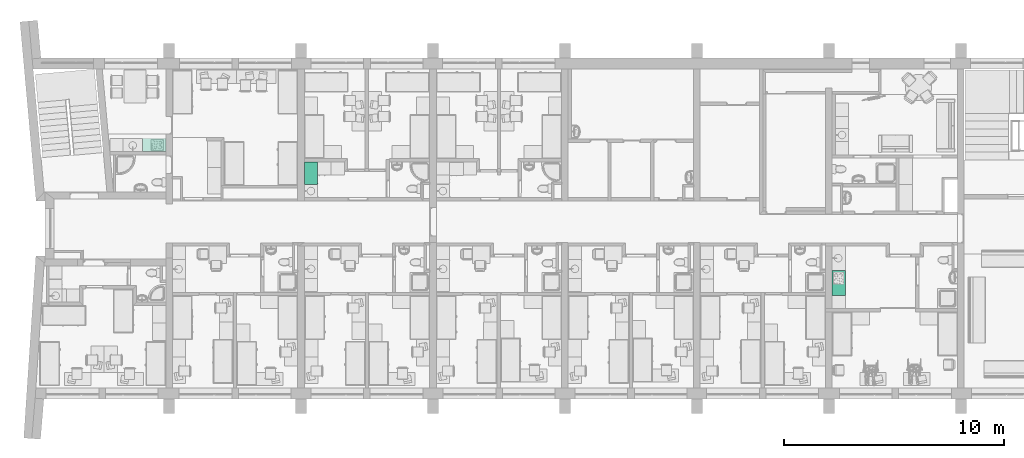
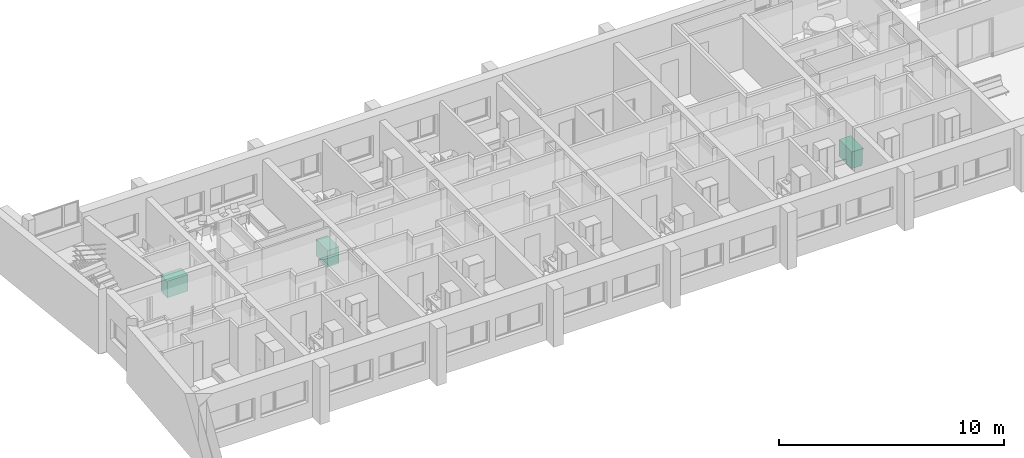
# One storey, part 65 of 172: 3 flow terminals.
"""IFC2X3 building model written with IfcOpenShell, lengths in millimetres."""

from ifc_helpers import new_model, entity, si_unit, converted_unit, money_unit, direction, frame, origin_with_axes, place, context, subcontext, project, spatial, faceted_brep, material, material_list, type_object, element, save


model = new_model("IFC2X3")

# Units and contexts
model_context = context("Model", 3, precision=1e-05, world=origin_with_axes(), true_north=direction((0.0, 1.0)))
body_context = subcontext(model_context, "Body", "Model", "MODEL_VIEW")
ifc_project = project(units=[si_unit("LENGTHUNIT", "METRE", prefix="MILLI"), si_unit("AREAUNIT", "SQUARE_METRE"), si_unit("VOLUMEUNIT", "CUBIC_METRE"), converted_unit("PLANEANGLEUNIT", "DEGREE", entity("IfcPlaneAngleMeasure", 0.0174532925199), si_unit("PLANEANGLEUNIT", "RADIAN"), dimensions=[0, 0, 0, 0, 0, 0, 0]), si_unit("SOLIDANGLEUNIT", "STERADIAN"), money_unit("USD"), converted_unit("TIMEUNIT", "Year", entity("IfcTimeMeasure", 31556926.0), si_unit("TIMEUNIT", "SECOND"), dimensions=[0, 0, 0, 0, 0, 0, 0]), si_unit("MASSUNIT", "GRAM"), si_unit("THERMODYNAMICTEMPERATUREUNIT", "DEGREE_CELSIUS"), si_unit("LUMINOUSINTENSITYUNIT", "LUMEN")], contexts=[model_context])

# Site, building, storey
site_placement = place(None, origin_with_axes())
site = spatial("IfcSite", under=ifc_project, at=site_placement, Name="Site", CompositionType="ELEMENT")
building_placement = place(site_placement, origin_with_axes())
building = spatial("IfcBuilding", under=site, at=building_placement, Name="Building", CompositionType="ELEMENT")
storey_placement = place(building_placement, frame((0.0, 0.0, 3200.0), z_axis=(0.0, 0.0, 1.0), x_axis=(1.0, 0.0, 0.0)))
storey = spatial("IfcBuildingStorey", under=building, at=storey_placement, Name="3KORRUS", CompositionType="ELEMENT", Elevation=3200.0)

# Flow terminals
ifc_material = material(Name="Background")
ifc_material_list = material_list([ifc_material])
sanitary_terminal_type = type_object("IfcSanitaryTerminalType", Name="Cabinet Base Single Door 19", PredefinedType="SINK")
flow_terminal_1_placement = place(storey_placement, frame((-41390.2967033, -9367.37850445, 0.0), z_axis=(0.0, 0.0, 1.0), x_axis=(0.0, 1.0, 0.0)))
element("IfcFlowTerminal", 1, at=flow_terminal_1_placement, inside=storey, type_object=sanitary_terminal_type, material=ifc_material_list, Name="FU - 007", context=body_context, shape_type="Brep", body=[
    faceted_brep([(-20.0, 20.0, 710.0), (-20.0, 20.0, 730.0), (-999.226, 20.0, 730.0), (-999.226, 20.0, 710.0), (-20.0, 580.0, 710.0), (-20.0, 580.0, 730.0), (-999.226, 580.0, 730.0), (-999.226, 580.0, 710.0)], [[[0, 1, 2, 3]], [[4, 5, 1, 0]], [[1, 5, 6, 2]], [[3, 2, 6, 7]], [[0, 3, 7, 4]], [[7, 6, 5, 4]]]),
    faceted_brep([(0.0, 20.0, 0.0), (0.0, 20.0, 90.0), (-1019.226, 20.0, 90.0), (-1019.226, 20.0, 0.0), (0.0, 600.0, 0.0), (0.0, 600.0, 90.0), (-1019.226, 600.0, 90.0), (-1019.226, 600.0, 0.0)], [[[0, 1, 2, 3]], [[4, 5, 1, 0]], [[1, 5, 6, 2]], [[3, 2, 6, 7]], [[0, 3, 7, 4]], [[7, 6, 5, 4]]]),
    faceted_brep([(0.0, 20.0, 830.0), (0.0, 20.0, 850.0), (-20.0, 20.0, 850.0), (-20.0, 20.0, 830.0), (0.0, 600.0, 830.0), (0.0, 600.0, 850.0), (-20.0, 600.0, 850.0), (-999.226, 600.0, 850.0), (-1019.226, 600.0, 850.0), (-1019.226, 20.0, 850.0), (-999.226, 20.0, 850.0), (-999.226, 20.0, 830.0), (-1019.226, 20.0, 830.0), (-1019.226, 600.0, 830.0), (-999.226, 600.0, 830.0), (-20.0, 600.0, 830.0)], [[[0, 1, 2, 3]], [[4, 5, 1, 0]], [[1, 5, 6, 7, 8, 9, 10, 2]], [[3, 2, 10, 11]], [[0, 3, 11, 12, 13, 14, 15, 4]], [[15, 6, 5, 4]], [[14, 7, 6, 15]], [[13, 8, 7, 14]], [[12, 9, 8, 13]], [[11, 10, 9, 12]]]),
    faceted_brep([(0.0, 20.0, 90.0), (0.0, 20.0, 110.0), (-20.0, 20.0, 110.0), (-20.0, 20.0, 90.0), (0.0, 600.0, 90.0), (0.0, 600.0, 110.0), (-20.0, 600.0, 110.0), (-999.226, 600.0, 110.0), (-1019.226, 600.0, 110.0), (-1019.226, 20.0, 110.0), (-999.226, 20.0, 110.0), (-999.226, 20.0, 90.0), (-1019.226, 20.0, 90.0), (-1019.226, 600.0, 90.0), (-999.226, 600.0, 90.0), (-20.0, 600.0, 90.0)], [[[0, 1, 2, 3]], [[4, 5, 1, 0]], [[1, 5, 6, 7, 8, 9, 10, 2]], [[3, 2, 10, 11]], [[0, 3, 11, 12, 13, 14, 15, 4]], [[15, 6, 5, 4]], [[14, 7, 6, 15]], [[13, 8, 7, 14]], [[12, 9, 8, 13]], [[11, 10, 9, 12]]]),
    faceted_brep([(0.0, 20.0, 110.0), (0.0, 20.0, 830.0), (-20.0, 20.0, 830.0), (-20.0, 20.0, 110.0), (0.0, 600.0, 110.0), (0.0, 600.0, 830.0), (-1019.226, 600.0, 830.0), (-1019.226, 20.0, 830.0), (-999.226, 20.0, 830.0), (-999.226, 580.0, 830.0), (-20.0, 580.0, 830.0), (-20.0, 580.0, 110.0), (-999.226, 580.0, 110.0), (-999.226, 20.0, 110.0), (-1019.226, 20.0, 110.0), (-1019.226, 600.0, 110.0)], [[[0, 1, 2, 3]], [[4, 5, 1, 0]], [[1, 5, 6, 7, 8, 9, 10, 2]], [[3, 2, 10, 11]], [[0, 3, 11, 12, 13, 14, 15, 4]], [[15, 6, 5, 4]], [[14, 7, 6, 15]], [[13, 8, 7, 14]], [[12, 9, 8, 13]], [[11, 10, 9, 12]]]),
    faceted_brep([(-999.226, 20.0, 385.0), (-999.226, 20.0, 405.0), (-999.226, 580.0, 405.0), (-999.226, 580.0, 385.0), (-20.0, 20.0, 385.0), (-20.0, 20.0, 405.0), (-20.0, 580.0, 405.0), (-20.0, 580.0, 385.0)], [[[0, 1, 2, 3]], [[4, 5, 1, 0]], [[1, 5, 6, 2]], [[3, 2, 6, 7]], [[0, 3, 7, 4]], [[7, 6, 5, 4]]]),
    faceted_brep([(0.0, 0.0, 850.0), (0.0, 0.0, 900.0), (-1019.226, 0.0, 900.0), (-1019.226, 0.0, 850.0), (0.0, 600.0, 850.0), (0.0, 600.0, 900.0), (-1019.226, 600.0, 900.0), (-1019.226, 600.0, 850.0)], [[[0, 1, 2, 3]], [[4, 5, 1, 0]], [[1, 5, 6, 2]], [[3, 2, 6, 7]], [[0, 3, 7, 4]], [[7, 6, 5, 4]]]),
    faceted_brep([(-1.5, 20.0, 721.5), (-1.5, 0.0, 721.5), (-1017.726, 0.0, 721.5), (-1017.726, 20.0, 721.5), (-1.5, 20.0, 848.5), (-1.5, 0.0, 848.5), (-1017.726, 0.0, 848.5), (-1017.726, 20.0, 848.5)], [[[0, 1, 2, 3]], [[4, 5, 1, 0]], [[1, 5, 6, 2]], [[3, 2, 6, 7]], [[0, 3, 7, 4]], [[7, 6, 5, 4]]]),
    faceted_brep([(-505.021, 0.0, 773.913), (-509.613, 0.0, 773.0), (-514.205, 0.0, 773.913), (-518.098, 0.0, 776.515), (-520.699, 0.0, 780.408), (-521.613, 0.0, 785.0), (-520.699, 0.0, 789.592), (-518.098, 0.0, 793.485), (-514.205, 0.0, 796.087), (-509.613, 0.0, 797.0), (-505.021, 0.0, 796.087), (-501.128, 0.0, 793.485), (-498.526, 0.0, 789.592), (-497.613, 0.0, 785.0), (-498.526, 0.0, 780.408), (-501.128, 0.0, 776.515), (-505.021, -25.0, 773.913), (-509.613, -25.0, 773.0), (-514.205, -25.0, 773.913), (-518.098, -25.0, 776.515), (-520.699, -25.0, 780.408), (-521.613, -25.0, 785.0), (-520.699, -25.0, 789.592), (-518.098, -25.0, 793.485), (-514.205, -25.0, 796.087), (-509.613, -25.0, 797.0), (-505.021, -25.0, 796.087), (-501.128, -25.0, 793.485), (-498.526, -25.0, 789.592), (-497.613, -25.0, 785.0), (-498.526, -25.0, 780.408), (-501.128, -25.0, 776.515)], [[[0, 1, 2, 3, 4, 5, 6, 7, 8, 9, 10, 11, 12, 13, 14, 15]], [[0, 16, 17, 1]], [[1, 17, 18, 2]], [[2, 18, 19, 3]], [[3, 19, 20, 4]], [[4, 20, 21, 5]], [[5, 21, 22, 6]], [[6, 22, 23, 7]], [[7, 23, 24, 8]], [[8, 24, 25, 9]], [[9, 25, 26, 10]], [[10, 26, 27, 11]], [[11, 27, 28, 12]], [[12, 28, 29, 13]], [[13, 29, 30, 14]], [[14, 30, 31, 15]], [[15, 31, 16, 0]], [[16, 31, 30, 29, 28, 27, 26, 25, 24, 23, 22, 21, 20, 19, 18, 17]]]),
    faceted_brep([(-1.5, 20.0, 91.5), (-1.5, 0.0, 91.5), (-1017.726, 0.0, 91.5), (-1017.726, 20.0, 91.5), (-1.5, 20.0, 718.5), (-1.5, 0.0, 718.5), (-1017.726, 0.0, 718.5), (-1017.726, 20.0, 718.5)], [[[0, 1, 2, 3]], [[4, 5, 1, 0]], [[1, 5, 6, 2]], [[3, 2, 6, 7]], [[0, 3, 7, 4]], [[7, 6, 5, 4]]]),
    faceted_brep([(-978.812, 0.0, 636.908), (-979.726, 0.0, 641.5), (-978.812, 0.0, 646.092), (-976.211, 0.0, 649.985), (-972.318, 0.0, 652.587), (-967.726, 0.0, 653.5), (-963.133, 0.0, 652.587), (-959.24, 0.0, 649.985), (-956.639, 0.0, 646.092), (-955.726, 0.0, 641.5), (-956.639, 0.0, 636.908), (-959.24, 0.0, 633.015), (-963.133, 0.0, 630.413), (-967.726, 0.0, 629.5), (-972.318, 0.0, 630.413), (-976.211, 0.0, 633.015), (-978.812, -25.0, 636.908), (-979.726, -25.0, 641.5), (-978.812, -25.0, 646.092), (-976.211, -25.0, 649.985), (-972.318, -25.0, 652.587), (-967.726, -25.0, 653.5), (-963.133, -25.0, 652.587), (-959.24, -25.0, 649.985), (-956.639, -25.0, 646.092), (-955.726, -25.0, 641.5), (-956.639, -25.0, 636.908), (-959.24, -25.0, 633.015), (-963.133, -25.0, 630.413), (-967.726, -25.0, 629.5), (-972.318, -25.0, 630.413), (-976.211, -25.0, 633.015)], [[[0, 1, 2, 3, 4, 5, 6, 7, 8, 9, 10, 11, 12, 13, 14, 15]], [[0, 16, 17, 1]], [[1, 17, 18, 2]], [[2, 18, 19, 3]], [[3, 19, 20, 4]], [[4, 20, 21, 5]], [[5, 21, 22, 6]], [[6, 22, 23, 7]], [[7, 23, 24, 8]], [[8, 24, 25, 9]], [[9, 25, 26, 10]], [[10, 26, 27, 11]], [[11, 27, 28, 12]], [[12, 28, 29, 13]], [[13, 29, 30, 14]], [[14, 30, 31, 15]], [[15, 31, 16, 0]], [[16, 31, 30, 29, 28, 27, 26, 25, 24, 23, 22, 21, 20, 19, 18, 17]]]),
])
flow_terminal_2_placement = place(storey_placement, frame((-49351.9913484, -8289.27319796, 0.0), z_axis=(0.0, 0.0, 1.0), x_axis=(-1.0, 0.0, 0.0)))
element("IfcFlowTerminal", 2, at=flow_terminal_2_placement, inside=storey, type_object=sanitary_terminal_type, material=ifc_material_list, Name="FU - 007", context=body_context, shape_type="Brep", body=[
    faceted_brep([(-20.0, 70.0, 710.0), (-20.0, 70.0, 730.0), (-1041.695, 70.0, 730.0), (-1041.695, 70.0, 710.0), (-20.0, 580.0, 710.0), (-20.0, 580.0, 730.0), (-1041.695, 580.0, 730.0), (-1041.695, 580.0, 710.0)], [[[0, 1, 2, 3]], [[4, 5, 1, 0]], [[1, 5, 6, 2]], [[3, 2, 6, 7]], [[0, 3, 7, 4]], [[7, 6, 5, 4]]]),
    faceted_brep([(0.0, 70.0, 0.0), (0.0, 70.0, 90.0), (-1061.695, 70.0, 90.0), (-1061.695, 70.0, 0.0), (0.0, 600.0, 0.0), (0.0, 600.0, 90.0), (-1061.695, 600.0, 90.0), (-1061.695, 600.0, 0.0)], [[[0, 1, 2, 3]], [[4, 5, 1, 0]], [[1, 5, 6, 2]], [[3, 2, 6, 7]], [[0, 3, 7, 4]], [[7, 6, 5, 4]]]),
    faceted_brep([(0.0, 70.0, 830.0), (0.0, 70.0, 850.0), (-20.0, 70.0, 850.0), (-20.0, 70.0, 830.0), (0.0, 600.0, 830.0), (0.0, 600.0, 850.0), (-20.0, 600.0, 850.0), (-1041.695, 600.0, 850.0), (-1061.695, 600.0, 850.0), (-1061.695, 70.0, 850.0), (-1041.695, 70.0, 850.0), (-1041.695, 70.0, 830.0), (-1061.695, 70.0, 830.0), (-1061.695, 600.0, 830.0), (-1041.695, 600.0, 830.0), (-20.0, 600.0, 830.0)], [[[0, 1, 2, 3]], [[4, 5, 1, 0]], [[1, 5, 6, 7, 8, 9, 10, 2]], [[3, 2, 10, 11]], [[0, 3, 11, 12, 13, 14, 15, 4]], [[15, 6, 5, 4]], [[14, 7, 6, 15]], [[13, 8, 7, 14]], [[12, 9, 8, 13]], [[11, 10, 9, 12]]]),
    faceted_brep([(0.0, 70.0, 90.0), (0.0, 70.0, 110.0), (-20.0, 70.0, 110.0), (-20.0, 70.0, 90.0), (0.0, 600.0, 90.0), (0.0, 600.0, 110.0), (-20.0, 600.0, 110.0), (-1041.695, 600.0, 110.0), (-1061.695, 600.0, 110.0), (-1061.695, 70.0, 110.0), (-1041.695, 70.0, 110.0), (-1041.695, 70.0, 90.0), (-1061.695, 70.0, 90.0), (-1061.695, 600.0, 90.0), (-1041.695, 600.0, 90.0), (-20.0, 600.0, 90.0)], [[[0, 1, 2, 3]], [[4, 5, 1, 0]], [[1, 5, 6, 7, 8, 9, 10, 2]], [[3, 2, 10, 11]], [[0, 3, 11, 12, 13, 14, 15, 4]], [[15, 6, 5, 4]], [[14, 7, 6, 15]], [[13, 8, 7, 14]], [[12, 9, 8, 13]], [[11, 10, 9, 12]]]),
    faceted_brep([(0.0, 70.0, 110.0), (0.0, 70.0, 830.0), (-20.0, 70.0, 830.0), (-20.0, 70.0, 110.0), (0.0, 600.0, 110.0), (0.0, 600.0, 830.0), (-1061.695, 600.0, 830.0), (-1061.695, 70.0, 830.0), (-1041.695, 70.0, 830.0), (-1041.695, 580.0, 830.0), (-20.0, 580.0, 830.0), (-20.0, 580.0, 110.0), (-1041.695, 580.0, 110.0), (-1041.695, 70.0, 110.0), (-1061.695, 70.0, 110.0), (-1061.695, 600.0, 110.0)], [[[0, 1, 2, 3]], [[4, 5, 1, 0]], [[1, 5, 6, 7, 8, 9, 10, 2]], [[3, 2, 10, 11]], [[0, 3, 11, 12, 13, 14, 15, 4]], [[15, 6, 5, 4]], [[14, 7, 6, 15]], [[13, 8, 7, 14]], [[12, 9, 8, 13]], [[11, 10, 9, 12]]]),
    faceted_brep([(-1041.695, 70.0, 385.0), (-1041.695, 70.0, 405.0), (-1041.695, 580.0, 405.0), (-1041.695, 580.0, 385.0), (-20.0, 70.0, 385.0), (-20.0, 70.0, 405.0), (-20.0, 580.0, 405.0), (-20.0, 580.0, 385.0)], [[[0, 1, 2, 3]], [[4, 5, 1, 0]], [[1, 5, 6, 2]], [[3, 2, 6, 7]], [[0, 3, 7, 4]], [[7, 6, 5, 4]]]),
    faceted_brep([(0.0, 0.0, 850.0), (0.0, 0.0, 900.0), (-1061.695, 0.0, 900.0), (-1061.695, 0.0, 850.0), (0.0, 600.0, 850.0), (0.0, 600.0, 900.0), (-1061.695, 600.0, 900.0), (-1061.695, 600.0, 850.0)], [[[0, 1, 2, 3]], [[4, 5, 1, 0]], [[1, 5, 6, 2]], [[3, 2, 6, 7]], [[0, 3, 7, 4]], [[7, 6, 5, 4]]]),
    faceted_brep([(-1.5, 70.0, 721.5), (-1.5, 50.0, 721.5), (-1060.195, 50.0, 721.5), (-1060.195, 70.0, 721.5), (-1.5, 70.0, 848.5), (-1.5, 50.0, 848.5), (-1060.195, 50.0, 848.5), (-1060.195, 70.0, 848.5)], [[[0, 1, 2, 3]], [[4, 5, 1, 0]], [[1, 5, 6, 2]], [[3, 2, 6, 7]], [[0, 3, 7, 4]], [[7, 6, 5, 4]]]),
    faceted_brep([(-526.255, 50.0, 773.913), (-530.847, 50.0, 773.0), (-535.44, 50.0, 773.913), (-539.333, 50.0, 776.515), (-541.934, 50.0, 780.408), (-542.847, 50.0, 785.0), (-541.934, 50.0, 789.592), (-539.333, 50.0, 793.485), (-535.44, 50.0, 796.087), (-530.847, 50.0, 797.0), (-526.255, 50.0, 796.087), (-522.362, 50.0, 793.485), (-519.761, 50.0, 789.592), (-518.847, 50.0, 785.0), (-519.761, 50.0, 780.408), (-522.362, 50.0, 776.515), (-526.255, 25.0, 773.913), (-530.847, 25.0, 773.0), (-535.44, 25.0, 773.913), (-539.333, 25.0, 776.515), (-541.934, 25.0, 780.408), (-542.847, 25.0, 785.0), (-541.934, 25.0, 789.592), (-539.333, 25.0, 793.485), (-535.44, 25.0, 796.087), (-530.847, 25.0, 797.0), (-526.255, 25.0, 796.087), (-522.362, 25.0, 793.485), (-519.761, 25.0, 789.592), (-518.847, 25.0, 785.0), (-519.761, 25.0, 780.408), (-522.362, 25.0, 776.515)], [[[0, 1, 2, 3, 4, 5, 6, 7, 8, 9, 10, 11, 12, 13, 14, 15]], [[0, 16, 17, 1]], [[1, 17, 18, 2]], [[2, 18, 19, 3]], [[3, 19, 20, 4]], [[4, 20, 21, 5]], [[5, 21, 22, 6]], [[6, 22, 23, 7]], [[7, 23, 24, 8]], [[8, 24, 25, 9]], [[9, 25, 26, 10]], [[10, 26, 27, 11]], [[11, 27, 28, 12]], [[12, 28, 29, 13]], [[13, 29, 30, 14]], [[14, 30, 31, 15]], [[15, 31, 16, 0]], [[16, 31, 30, 29, 28, 27, 26, 25, 24, 23, 22, 21, 20, 19, 18, 17]]]),
    faceted_brep([(-1.5, 70.0, 91.5), (-1.5, 50.0, 91.5), (-1060.195, 50.0, 91.5), (-1060.195, 70.0, 91.5), (-1.5, 70.0, 718.5), (-1.5, 50.0, 718.5), (-1060.195, 50.0, 718.5), (-1060.195, 70.0, 718.5)], [[[0, 1, 2, 3]], [[4, 5, 1, 0]], [[1, 5, 6, 2]], [[3, 2, 6, 7]], [[0, 3, 7, 4]], [[7, 6, 5, 4]]]),
    faceted_brep([(-1021.281, 50.0, 636.908), (-1022.195, 50.0, 641.5), (-1021.281, 50.0, 646.092), (-1018.68, 50.0, 649.985), (-1014.787, 50.0, 652.587), (-1010.195, 50.0, 653.5), (-1005.602, 50.0, 652.587), (-1001.709, 50.0, 649.985), (-999.108, 50.0, 646.092), (-998.195, 50.0, 641.5), (-999.108, 50.0, 636.908), (-1001.709, 50.0, 633.015), (-1005.602, 50.0, 630.413), (-1010.195, 50.0, 629.5), (-1014.787, 50.0, 630.413), (-1018.68, 50.0, 633.015), (-1021.281, 25.0, 636.908), (-1022.195, 25.0, 641.5), (-1021.281, 25.0, 646.092), (-1018.68, 25.0, 649.985), (-1014.787, 25.0, 652.587), (-1010.195, 25.0, 653.5), (-1005.602, 25.0, 652.587), (-1001.709, 25.0, 649.985), (-999.108, 25.0, 646.092), (-998.195, 25.0, 641.5), (-999.108, 25.0, 636.908), (-1001.709, 25.0, 633.015), (-1005.602, 25.0, 630.413), (-1010.195, 25.0, 629.5), (-1014.787, 25.0, 630.413), (-1018.68, 25.0, 633.015)], [[[0, 1, 2, 3, 4, 5, 6, 7, 8, 9, 10, 11, 12, 13, 14, 15]], [[0, 16, 17, 1]], [[1, 17, 18, 2]], [[2, 18, 19, 3]], [[3, 19, 20, 4]], [[4, 20, 21, 5]], [[5, 21, 22, 6]], [[6, 22, 23, 7]], [[7, 23, 24, 8]], [[8, 24, 25, 9]], [[9, 25, 26, 10]], [[10, 26, 27, 11]], [[11, 27, 28, 12]], [[12, 28, 29, 13]], [[13, 29, 30, 14]], [[14, 30, 31, 15]], [[15, 31, 16, 0]], [[16, 31, 30, 29, 28, 27, 26, 25, 24, 23, 22, 21, 20, 19, 18, 17]]]),
])
flow_terminal_3_placement = place(storey_placement, frame((-17390.2967033, -15426.7357921, 0.0), z_axis=(0.0, 0.0, 1.0), x_axis=(0.0, 1.0, 0.0)))
element("IfcFlowTerminal", 3, at=flow_terminal_3_placement, inside=storey, type_object=sanitary_terminal_type, material=ifc_material_list, Name="FU - 007", context=body_context, shape_type="Brep", body=[
    faceted_brep([(20.0, 70.0, 710.0), (1117.496, 70.0, 710.0), (1117.496, 70.0, 730.0), (20.0, 70.0, 730.0), (20.0, 580.0, 710.0), (1117.496, 580.0, 710.0), (1117.496, 580.0, 730.0), (20.0, 580.0, 730.0)], [[[0, 1, 2, 3]], [[0, 4, 5, 1]], [[1, 5, 6, 2]], [[3, 2, 6, 7]], [[4, 0, 3, 7]], [[5, 4, 7, 6]]]),
    faceted_brep([(0.0, 70.0, 0.0), (1137.496, 70.0, 0.0), (1137.496, 70.0, 90.0), (0.0, 70.0, 90.0), (0.0, 600.0, 0.0), (1137.496, 600.0, 0.0), (1137.496, 600.0, 90.0), (0.0, 600.0, 90.0)], [[[0, 1, 2, 3]], [[0, 4, 5, 1]], [[1, 5, 6, 2]], [[3, 2, 6, 7]], [[4, 0, 3, 7]], [[5, 4, 7, 6]]]),
    faceted_brep([(0.0, 70.0, 830.0), (20.0, 70.0, 830.0), (20.0, 70.0, 850.0), (0.0, 70.0, 850.0), (0.0, 600.0, 830.0), (20.0, 600.0, 830.0), (1117.496, 600.0, 830.0), (1137.496, 600.0, 830.0), (1137.496, 70.0, 830.0), (1117.496, 70.0, 830.0), (1117.496, 70.0, 850.0), (1137.496, 70.0, 850.0), (1137.496, 600.0, 850.0), (1117.496, 600.0, 850.0), (20.0, 600.0, 850.0), (0.0, 600.0, 850.0)], [[[0, 1, 2, 3]], [[0, 4, 5, 6, 7, 8, 9, 1]], [[1, 9, 10, 2]], [[3, 2, 10, 11, 12, 13, 14, 15]], [[4, 0, 3, 15]], [[5, 4, 15, 14]], [[6, 5, 14, 13]], [[7, 6, 13, 12]], [[8, 7, 12, 11]], [[9, 8, 11, 10]]]),
    faceted_brep([(0.0, 70.0, 90.0), (20.0, 70.0, 90.0), (20.0, 70.0, 110.0), (0.0, 70.0, 110.0), (0.0, 600.0, 90.0), (20.0, 600.0, 90.0), (1117.496, 600.0, 90.0), (1137.496, 600.0, 90.0), (1137.496, 70.0, 90.0), (1117.496, 70.0, 90.0), (1117.496, 70.0, 110.0), (1137.496, 70.0, 110.0), (1137.496, 600.0, 110.0), (1117.496, 600.0, 110.0), (20.0, 600.0, 110.0), (0.0, 600.0, 110.0)], [[[0, 1, 2, 3]], [[0, 4, 5, 6, 7, 8, 9, 1]], [[1, 9, 10, 2]], [[3, 2, 10, 11, 12, 13, 14, 15]], [[4, 0, 3, 15]], [[5, 4, 15, 14]], [[6, 5, 14, 13]], [[7, 6, 13, 12]], [[8, 7, 12, 11]], [[9, 8, 11, 10]]]),
    faceted_brep([(0.0, 70.0, 110.0), (20.0, 70.0, 110.0), (20.0, 70.0, 830.0), (0.0, 70.0, 830.0), (0.0, 600.0, 110.0), (1137.496, 600.0, 110.0), (1137.496, 70.0, 110.0), (1117.496, 70.0, 110.0), (1117.496, 580.0, 110.0), (20.0, 580.0, 110.0), (20.0, 580.0, 830.0), (1117.496, 580.0, 830.0), (1117.496, 70.0, 830.0), (1137.496, 70.0, 830.0), (1137.496, 600.0, 830.0), (0.0, 600.0, 830.0)], [[[0, 1, 2, 3]], [[0, 4, 5, 6, 7, 8, 9, 1]], [[1, 9, 10, 2]], [[3, 2, 10, 11, 12, 13, 14, 15]], [[4, 0, 3, 15]], [[5, 4, 15, 14]], [[6, 5, 14, 13]], [[7, 6, 13, 12]], [[8, 7, 12, 11]], [[9, 8, 11, 10]]]),
    faceted_brep([(1117.496, 70.0, 385.0), (1117.496, 580.0, 385.0), (1117.496, 580.0, 405.0), (1117.496, 70.0, 405.0), (20.0, 70.0, 385.0), (20.0, 580.0, 385.0), (20.0, 580.0, 405.0), (20.0, 70.0, 405.0)], [[[0, 1, 2, 3]], [[0, 4, 5, 1]], [[1, 5, 6, 2]], [[3, 2, 6, 7]], [[4, 0, 3, 7]], [[5, 4, 7, 6]]]),
    faceted_brep([(0.0, 0.0, 850.0), (1137.496, 0.0, 850.0), (1137.496, 0.0, 900.0), (0.0, 0.0, 900.0), (0.0, 600.0, 850.0), (1137.496, 600.0, 850.0), (1137.496, 600.0, 900.0), (0.0, 600.0, 900.0)], [[[0, 1, 2, 3]], [[0, 4, 5, 1]], [[1, 5, 6, 2]], [[3, 2, 6, 7]], [[4, 0, 3, 7]], [[5, 4, 7, 6]]]),
    faceted_brep([(1.5, 70.0, 721.5), (1135.996, 70.0, 721.5), (1135.996, 50.0, 721.5), (1.5, 50.0, 721.5), (1.5, 70.0, 848.5), (1135.996, 70.0, 848.5), (1135.996, 50.0, 848.5), (1.5, 50.0, 848.5)], [[[0, 1, 2, 3]], [[0, 4, 5, 1]], [[1, 5, 6, 2]], [[3, 2, 6, 7]], [[4, 0, 3, 7]], [[5, 4, 7, 6]]]),
    faceted_brep([(564.156, 50.0, 773.913), (560.263, 50.0, 776.515), (557.661, 50.0, 780.408), (556.748, 50.0, 785.0), (557.661, 50.0, 789.592), (560.263, 50.0, 793.485), (564.156, 50.0, 796.087), (568.748, 50.0, 797.0), (573.34, 50.0, 796.087), (577.233, 50.0, 793.485), (579.835, 50.0, 789.592), (580.748, 50.0, 785.0), (579.835, 50.0, 780.408), (577.233, 50.0, 776.515), (573.34, 50.0, 773.913), (568.748, 50.0, 773.0), (564.156, 25.0, 773.913), (560.263, 25.0, 776.515), (557.661, 25.0, 780.408), (556.748, 25.0, 785.0), (557.661, 25.0, 789.592), (560.263, 25.0, 793.485), (564.156, 25.0, 796.087), (568.748, 25.0, 797.0), (573.34, 25.0, 796.087), (577.233, 25.0, 793.485), (579.835, 25.0, 789.592), (580.748, 25.0, 785.0), (579.835, 25.0, 780.408), (577.233, 25.0, 776.515), (573.34, 25.0, 773.913), (568.748, 25.0, 773.0)], [[[0, 1, 2, 3, 4, 5, 6, 7, 8, 9, 10, 11, 12, 13, 14, 15]], [[1, 0, 16, 17]], [[2, 1, 17, 18]], [[3, 2, 18, 19]], [[4, 3, 19, 20]], [[5, 4, 20, 21]], [[6, 5, 21, 22]], [[7, 6, 22, 23]], [[8, 7, 23, 24]], [[9, 8, 24, 25]], [[10, 9, 25, 26]], [[11, 10, 26, 27]], [[12, 11, 27, 28]], [[13, 12, 28, 29]], [[14, 13, 29, 30]], [[15, 14, 30, 31]], [[0, 15, 31, 16]], [[16, 31, 30, 29, 28, 27, 26, 25, 24, 23, 22, 21, 20, 19, 18, 17]]]),
    faceted_brep([(1.5, 70.0, 91.5), (1135.996, 70.0, 91.5), (1135.996, 50.0, 91.5), (1.5, 50.0, 91.5), (1.5, 70.0, 718.5), (1135.996, 70.0, 718.5), (1135.996, 50.0, 718.5), (1.5, 50.0, 718.5)], [[[0, 1, 2, 3]], [[0, 4, 5, 1]], [[1, 5, 6, 2]], [[3, 2, 6, 7]], [[4, 0, 3, 7]], [[5, 4, 7, 6]]]),
    faceted_brep([(1097.082, 50.0, 636.908), (1094.481, 50.0, 633.015), (1090.588, 50.0, 630.413), (1085.996, 50.0, 629.5), (1081.404, 50.0, 630.413), (1077.511, 50.0, 633.015), (1074.909, 50.0, 636.908), (1073.996, 50.0, 641.5), (1074.909, 50.0, 646.092), (1077.511, 50.0, 649.985), (1081.404, 50.0, 652.587), (1085.996, 50.0, 653.5), (1090.588, 50.0, 652.587), (1094.481, 50.0, 649.985), (1097.082, 50.0, 646.092), (1097.996, 50.0, 641.5), (1097.082, 25.0, 636.908), (1094.481, 25.0, 633.015), (1090.588, 25.0, 630.413), (1085.996, 25.0, 629.5), (1081.404, 25.0, 630.413), (1077.511, 25.0, 633.015), (1074.909, 25.0, 636.908), (1073.996, 25.0, 641.5), (1074.909, 25.0, 646.092), (1077.511, 25.0, 649.985), (1081.404, 25.0, 652.587), (1085.996, 25.0, 653.5), (1090.588, 25.0, 652.587), (1094.481, 25.0, 649.985), (1097.082, 25.0, 646.092), (1097.996, 25.0, 641.5)], [[[0, 1, 2, 3, 4, 5, 6, 7, 8, 9, 10, 11, 12, 13, 14, 15]], [[1, 0, 16, 17]], [[2, 1, 17, 18]], [[3, 2, 18, 19]], [[4, 3, 19, 20]], [[5, 4, 20, 21]], [[6, 5, 21, 22]], [[7, 6, 22, 23]], [[8, 7, 23, 24]], [[9, 8, 24, 25]], [[10, 9, 25, 26]], [[11, 10, 26, 27]], [[12, 11, 27, 28]], [[13, 12, 28, 29]], [[14, 13, 29, 30]], [[15, 14, 30, 31]], [[0, 15, 31, 16]], [[16, 31, 30, 29, 28, 27, 26, 25, 24, 23, 22, 21, 20, 19, 18, 17]]]),
])

save(model, "model.ifc")
